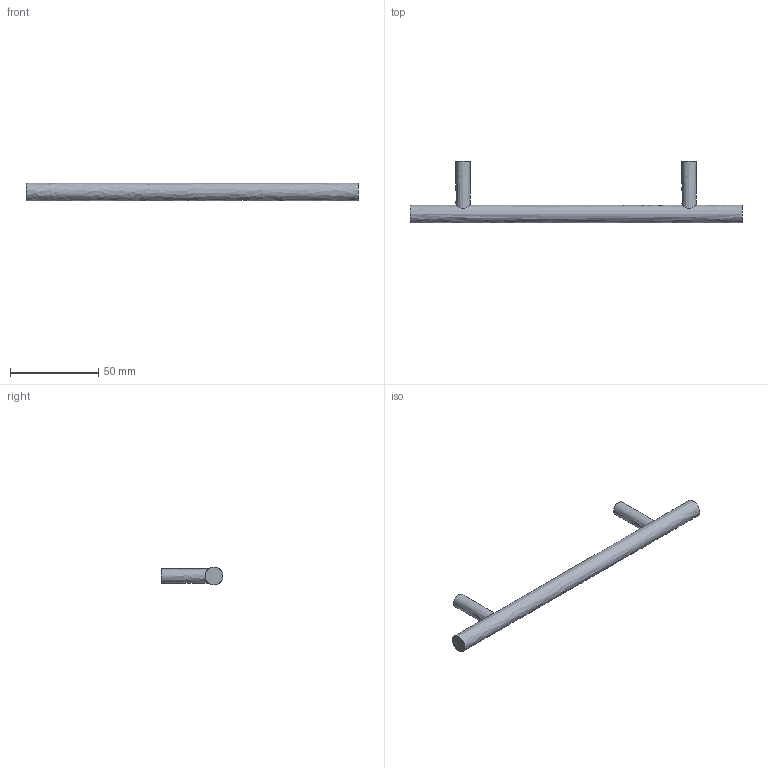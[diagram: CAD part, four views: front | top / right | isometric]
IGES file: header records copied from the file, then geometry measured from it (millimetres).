
Start section: Data from Parasolid IGES Translator 15.0.47, Copyright(c) 2006 Siemens P LM Software. All Rights Reserved.
Global section: file name: 9070972.igs; native system:  By UGS Corp.; preprocessor: XPlus GENERIC/IGES 3.0; author: Noname; organization: Noname; date: 20140122.181217; units: millimetre
Bounding box: 188 x 35 x 10 mm (x, y, z)
Surface area: 7657.6 mm2 (no closed solid volume)
Topology: 0 solids, 0 shells, 11 faces, 30 edges, 22 vertices
Faces by surface type: extrusion 6, revolution 5
